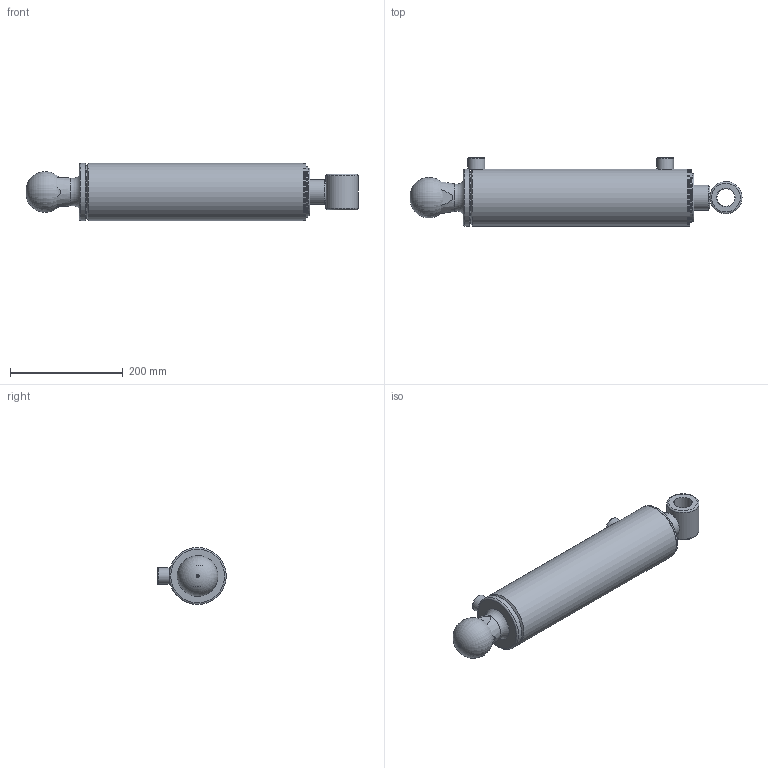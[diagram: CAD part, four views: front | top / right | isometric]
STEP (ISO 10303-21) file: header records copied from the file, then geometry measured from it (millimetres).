
FILE_DESCRIPTION(/* description */ ('Alibre Inc.'),/* implementation_level */ '2;1');
FILE_NAME(/* name */ 'export0',/* time_stamp */ '2016-08-16T10:03:17+12:00',/* author */ (''),/* organization */ (''),/* preprocessor_version */ 'ST-DEVELOPER v14',/* originating_system */ 'Alibre',/* authorisation */ '');
FILE_SCHEMA (('AUTOMOTIVE_DESIGN'));
Length unit declared in the file: centimetre
Bounding box: 589.91 x 121.6 x 101.6 mm (x, y, z)
Volume: 2369101.8 mm3; surface area: 503904.8 mm2
Topology: 12 solids, 12 shells, 148 faces, 306 edges, 191 vertices
Faces by surface type: cylinder 57, plane 48, cone 26, torus 16, bspline 1
Full cylindrical faces by diameter (mm): 7 x1, 8.3 x2, 8.4 x1, 12.7 x2, 19.1 x2, 29.35 x1, 29.972 x1, 30 x2, 31.75 x1, 31.8 x1, 31.801 x1, 44.45 x2, 44.53 x2, 50.8 x1, 53.25 x2, 53.97 x2, 57.15 x1, 73.03 x1, 81.9 x1, 83.06 x1, 84.3 x2, 85.27 x2, 85.5 x1, 87.53 x2, 88.75 x1, 88.79 x2, 88.9 x2, 92.1 x1, 101.6 x3
Entity records: 4071 total; most frequent: CARTESIAN_POINT 1180, DIRECTION 562, ORIENTED_EDGE 372, AXIS2_PLACEMENT_3D 297, FACE_BOUND 270, EDGE_LOOP 267, EDGE_CURVE 186, VERTEX_POINT 166
